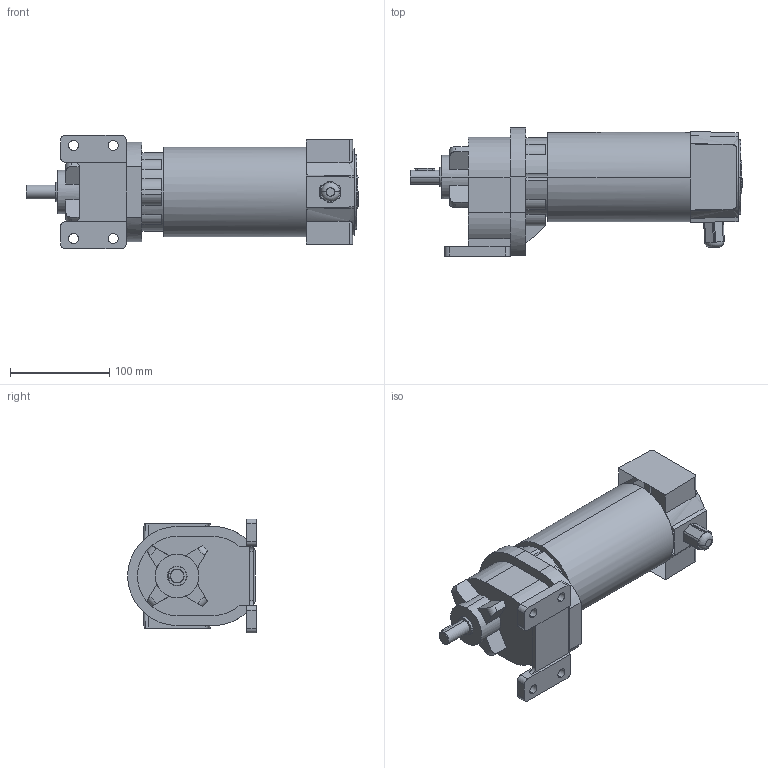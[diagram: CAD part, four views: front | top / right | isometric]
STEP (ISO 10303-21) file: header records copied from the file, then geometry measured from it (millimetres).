
FILE_DESCRIPTION(('OneSpaceDesigner STEP Export'),'2;1');
FILE_NAME('EPG23_S30.stp','2008-07-17T 9:49:24',(''),(''),'OneSpace Designer STEP processor (Jan. 2003) for AP214(CD)(Solid Model)','OneSpace Designer 12.01D 09-Jul-2004 (C) CoCreate Software GmbH','');
FILE_SCHEMA(('AUTOMOTIVE_DESIGN_CC2 {1 2 10303 214 -1 1 5 1}'));
Length unit declared in the file: millimetre
Products named in the file (2): EPG23_S30
Assembly tree (1 placements, depth 2):
  EPG23_S30
    EPG23_S30
Bounding box: 335 x 130 x 115 mm (x, y, z)
Volume: 2055036.2 mm3; surface area: 133450.6 mm2
Topology: 1 solids, 1 shells, 152 faces, 411 edges, 271 vertices
Faces by surface type: plane 80, cylinder 60, torus 6, cone 4, bspline 2
Entity records: 7493 total; most frequent: CARTESIAN_POINT 3756, ORIENTED_EDGE 822, DIRECTION 706, EDGE_CURVE 411, VERTEX_POINT 271, AXIS2_PLACEMENT_3D 241, VECTOR 224, LINE 224
